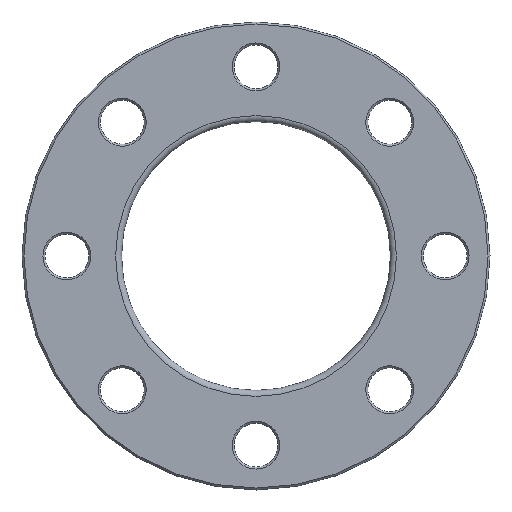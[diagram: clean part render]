
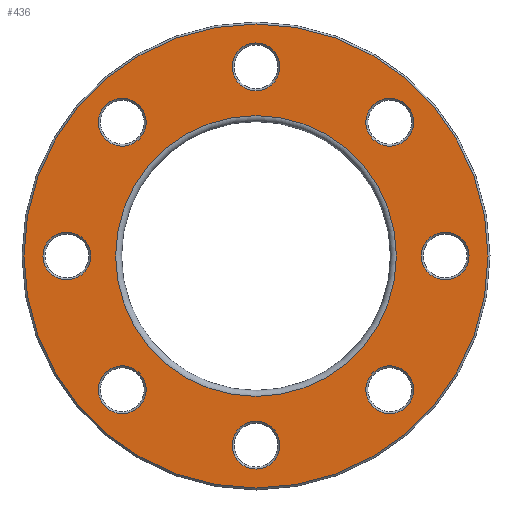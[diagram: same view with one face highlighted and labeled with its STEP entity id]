
A CAD part, front view. The second image highlights one B-rep face of the part: STEP entity #436.
In plain terms, the highlighted planar face has unit normal (0, -1, 0).
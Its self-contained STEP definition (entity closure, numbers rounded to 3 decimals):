
#23=PLANE('',#516);
#98=ORIENTED_EDGE('',*,*,#157,.T.);
#99=ORIENTED_EDGE('',*,*,#158,.T.);
#100=ORIENTED_EDGE('',*,*,#124,.T.);
#101=ORIENTED_EDGE('',*,*,#128,.T.);
#102=ORIENTED_EDGE('',*,*,#132,.T.);
#103=ORIENTED_EDGE('',*,*,#136,.T.);
#104=ORIENTED_EDGE('',*,*,#140,.T.);
#105=ORIENTED_EDGE('',*,*,#144,.T.);
#106=ORIENTED_EDGE('',*,*,#148,.T.);
#107=ORIENTED_EDGE('',*,*,#159,.T.);
#124=EDGE_CURVE('',#164,#164,#204,.T.);
#128=EDGE_CURVE('',#168,#168,#208,.T.);
#132=EDGE_CURVE('',#172,#172,#212,.T.);
#136=EDGE_CURVE('',#176,#176,#216,.T.);
#140=EDGE_CURVE('',#180,#180,#220,.T.);
#144=EDGE_CURVE('',#184,#184,#224,.T.);
#148=EDGE_CURVE('',#188,#188,#228,.T.);
#157=EDGE_CURVE('',#197,#197,#237,.F.);
#158=EDGE_CURVE('',#198,#198,#238,.T.);
#159=EDGE_CURVE('',#199,#199,#239,.T.);
#164=VERTEX_POINT('',#683);
#168=VERTEX_POINT('',#694);
#172=VERTEX_POINT('',#705);
#176=VERTEX_POINT('',#716);
#180=VERTEX_POINT('',#727);
#184=VERTEX_POINT('',#738);
#188=VERTEX_POINT('',#749);
#197=VERTEX_POINT('',#772);
#198=VERTEX_POINT('',#774);
#199=VERTEX_POINT('',#776);
#204=CIRCLE('',#461,12.);
#208=CIRCLE('',#468,12.);
#212=CIRCLE('',#475,12.);
#216=CIRCLE('',#482,12.);
#220=CIRCLE('',#489,12.);
#224=CIRCLE('',#496,12.);
#228=CIRCLE('',#503,12.);
#237=CIRCLE('',#517,116.5);
#238=CIRCLE('',#518,70.5);
#239=CIRCLE('',#519,12.);
#298=EDGE_LOOP('',(#98));
#299=EDGE_LOOP('',(#99));
#300=EDGE_LOOP('',(#100));
#301=EDGE_LOOP('',(#101));
#302=EDGE_LOOP('',(#102));
#303=EDGE_LOOP('',(#103));
#304=EDGE_LOOP('',(#104));
#305=EDGE_LOOP('',(#105));
#306=EDGE_LOOP('',(#106));
#307=EDGE_LOOP('',(#107));
#378=FACE_BOUND('',#298,.T.);
#379=FACE_BOUND('',#299,.T.);
#380=FACE_BOUND('',#300,.T.);
#381=FACE_BOUND('',#301,.T.);
#382=FACE_BOUND('',#302,.T.);
#383=FACE_BOUND('',#303,.T.);
#384=FACE_BOUND('',#304,.T.);
#385=FACE_BOUND('',#305,.T.);
#386=FACE_BOUND('',#306,.T.);
#387=FACE_BOUND('',#307,.T.);
#436=ADVANCED_FACE('',(#378,#379,#380,#381,#382,#383,#384,#385,#386,#387),
#23,.F.);
#461=AXIS2_PLACEMENT_3D('',#682,#539,#540);
#468=AXIS2_PLACEMENT_3D('',#693,#553,#554);
#475=AXIS2_PLACEMENT_3D('',#704,#567,#568);
#482=AXIS2_PLACEMENT_3D('',#715,#581,#582);
#489=AXIS2_PLACEMENT_3D('',#726,#595,#596);
#496=AXIS2_PLACEMENT_3D('',#737,#609,#610);
#503=AXIS2_PLACEMENT_3D('',#748,#623,#624);
#516=AXIS2_PLACEMENT_3D('',#770,#649,#650);
#517=AXIS2_PLACEMENT_3D('',#771,#651,#652);
#518=AXIS2_PLACEMENT_3D('',#773,#653,#654);
#519=AXIS2_PLACEMENT_3D('',#775,#655,#656);
#539=DIRECTION('',(0.,1.,0.));
#540=DIRECTION('',(0.707,0.,0.707));
#553=DIRECTION('',(0.,1.,0.));
#554=DIRECTION('',(0.,0.,1.));
#567=DIRECTION('',(0.,1.,0.));
#568=DIRECTION('',(-0.707,0.,0.707));
#581=DIRECTION('',(0.,1.,0.));
#582=DIRECTION('',(-1.,0.,0.));
#595=DIRECTION('',(0.,1.,0.));
#596=DIRECTION('',(-0.707,0.,-0.707));
#609=DIRECTION('',(0.,1.,0.));
#610=DIRECTION('',(0.,0.,-1.));
#623=DIRECTION('',(0.,1.,0.));
#624=DIRECTION('',(0.707,0.,-0.707));
#649=DIRECTION('',(0.,1.,0.));
#650=DIRECTION('',(0.,0.,1.));
#651=DIRECTION('',(0.,1.,0.));
#652=DIRECTION('',(0.,0.,1.));
#653=DIRECTION('',(0.,1.,0.));
#654=DIRECTION('',(0.,0.,1.));
#655=DIRECTION('',(0.,1.,0.));
#656=DIRECTION('',(1.,0.,0.));
#682=CARTESIAN_POINT('',(-67.175,0.,67.175));
#683=CARTESIAN_POINT('',(-58.69,0.,75.66));
#693=CARTESIAN_POINT('',(-95.,0.,0.));
#694=CARTESIAN_POINT('',(-95.,0.,12.));
#704=CARTESIAN_POINT('',(-67.175,0.,-67.175));
#705=CARTESIAN_POINT('',(-75.66,0.,-58.69));
#715=CARTESIAN_POINT('',(0.,0.,-95.));
#716=CARTESIAN_POINT('',(-12.,0.,-95.));
#726=CARTESIAN_POINT('',(67.175,0.,-67.175));
#727=CARTESIAN_POINT('',(58.69,0.,-75.66));
#737=CARTESIAN_POINT('',(95.,0.,0.));
#738=CARTESIAN_POINT('',(95.,0.,-12.));
#748=CARTESIAN_POINT('',(67.175,0.,67.175));
#749=CARTESIAN_POINT('',(75.66,0.,58.69));
#770=CARTESIAN_POINT('',(0.,0.,0.));
#771=CARTESIAN_POINT('',(0.,0.,0.));
#772=CARTESIAN_POINT('',(0.,0.,116.5));
#773=CARTESIAN_POINT('',(0.,0.,0.));
#774=CARTESIAN_POINT('',(0.,0.,70.5));
#775=CARTESIAN_POINT('',(0.,0.,95.));
#776=CARTESIAN_POINT('',(12.,0.,95.));
